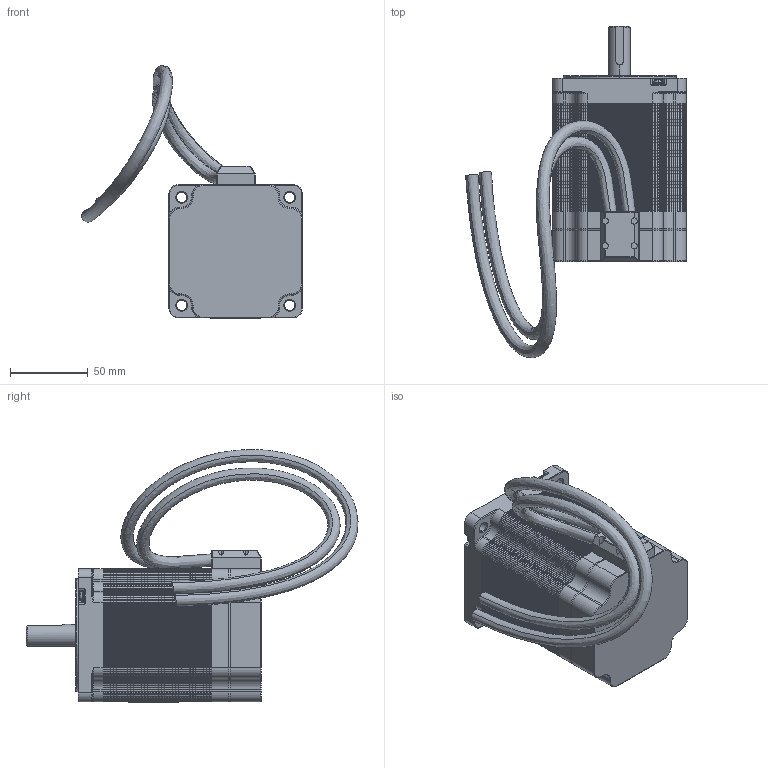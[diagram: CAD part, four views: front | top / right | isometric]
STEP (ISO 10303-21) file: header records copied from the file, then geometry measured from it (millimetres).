
FILE_DESCRIPTION (( 'STEP AP214' ), '1' );
FILE_NAME ('NEMA34_98mm_14mm_shaft_key_E1000.STEP', '2020-11-16T08:09:46', ( 'Moofasta' ), ( '' ), 'SwSTEP 2.0', 'SolidWorks 2020', '' );
FILE_SCHEMA (( 'AUTOMOTIVE_DESIGN' ));
Length unit declared in the file: millimetre
Products named in the file (1): NEMA34_98mm_14mm_shaft_key_E1000
Bounding box: 142.29 x 214.11 x 163.09 mm (x, y, z)
Volume: 824388.2 mm3; surface area: 948881.8 mm2
Topology: 80 solids, 80 shells, 5985 faces, 13693 edges, 7850 vertices
Faces by surface type: plane 2952, cone 1684, cylinder 1083, bspline 128, torus 115, sphere 23
Entity records: 231884 total; most frequent: CARTESIAN_POINT 36543, DIRECTION 28944, ORIENTED_EDGE 27304, EDGE_CURVE 13652, AXIS2_PLACEMENT_3D 9805, LINE 9334, VECTOR 9334, VERTEX_POINT 7850
